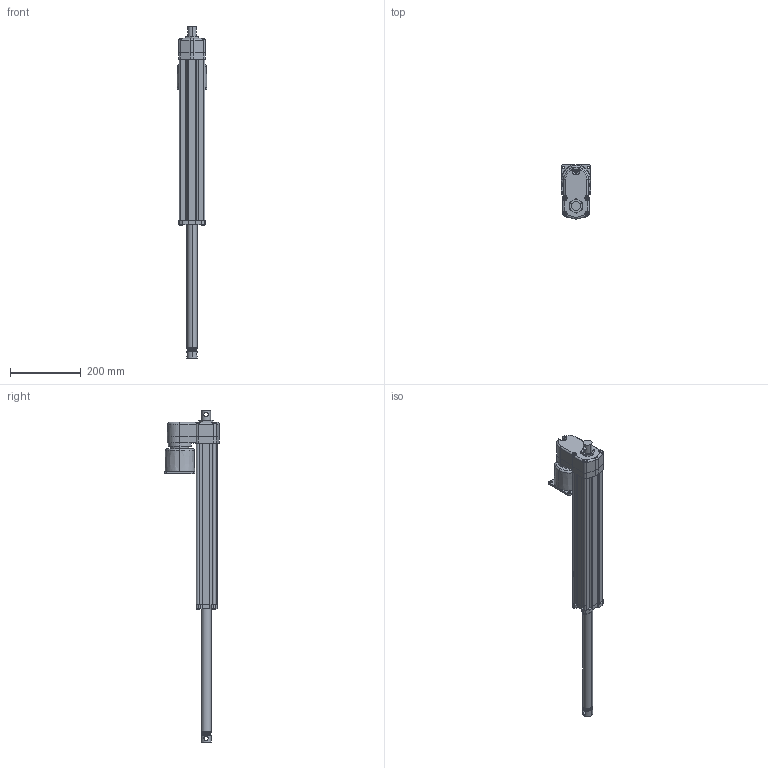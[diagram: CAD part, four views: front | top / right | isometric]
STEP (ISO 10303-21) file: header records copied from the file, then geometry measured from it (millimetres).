
FILE_DESCRIPTION (( 'STEP AP214' ), '1' );
FILE_NAME ('FA14-05A65M35M0_tollo.step', '2020-04-15T18:21:12', ( '' ), ( '' ), 'SwSTEP 2.0', 'SolidWorks 2010', '' );
FILE_SCHEMA (( 'AUTOMOTIVE_DESIGN' ));
Length unit declared in the file: millimetre
Products named in the file (9): Electrak-FA14-House-Acme-Tollo; Electrak-FA14-Rear-Tollo; Electrak-FA14-Motor-Tollo; Electrak-FA14-Tube-Acme-Tollo; Electrak-FA14-Plate-Tollo; Screw-MRT-TT-M5; Screw-M6S-M5; Electrak-FA14-Rod-Acme-Tollo; FA14-05A65M35M0_tollo
Assembly tree (15 placements, depth 3):
  FA14-05A65M35M0_tollo
    Electrak-FA14-Rod-Acme-Tollo
    Electrak-FA14-House-Acme-Tollo
      Electrak-FA14-Tube-Acme-Tollo
      Screw-M6S-M5  x8
      Electrak-FA14-Rear-Tollo
      Electrak-FA14-Motor-Tollo
      Screw-MRT-TT-M5
      Electrak-FA14-Plate-Tollo
Bounding box: 85 x 154.18 x 941.1 mm (x, y, z)
Volume: 1504193.4 mm3; surface area: 457417 mm2
Topology: 14 solids, 14 shells, 636 faces, 1593 edges, 1013 vertices
Faces by surface type: cylinder 277, plane 234, cone 96, torus 27, bspline 2
Entity records: 14174 total; most frequent: CARTESIAN_POINT 3137, DIRECTION 2360, ORIENTED_EDGE 2174, EDGE_CURVE 1087, AXIS2_PLACEMENT_3D 885, VERTEX_POINT 698, LINE 590, VECTOR 590
